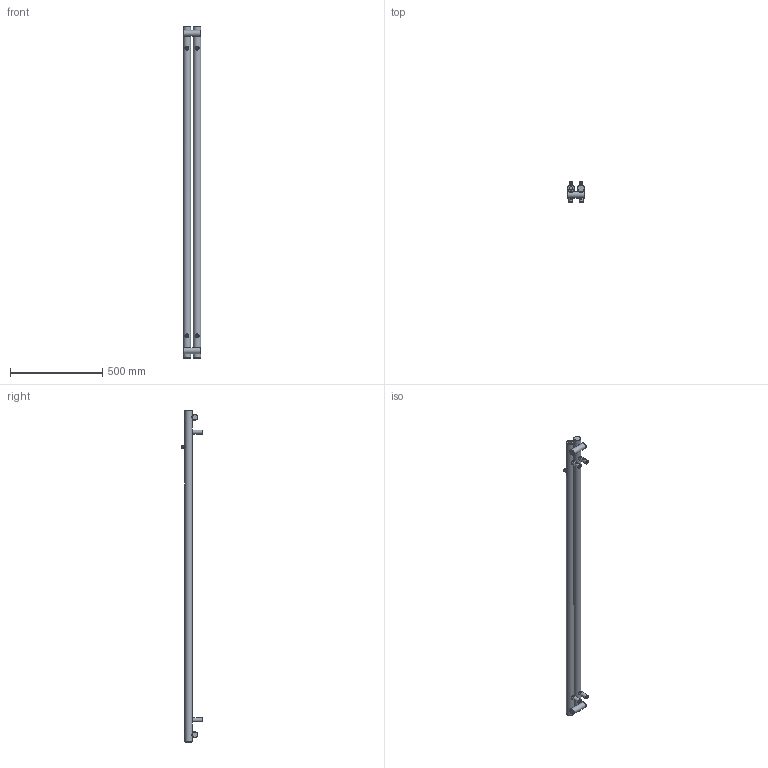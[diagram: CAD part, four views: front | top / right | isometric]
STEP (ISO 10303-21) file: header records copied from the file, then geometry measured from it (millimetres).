
FILE_DESCRIPTION(/* description */ (''),/* implementation_level */ '2;1');
FILE_NAME(/* name */ 'Z:\R\G\P\RGP116 - Grzejniki Geyser\Work\Inventor\Circolo (Rolo V, Rolo H)\ROLO-HANGER\Marketing\Bryły\Zaokrąglone\WGROW180009-SX-CK-(Z).stp',/* time_stamp */ '2024-03-27T09:36:32+01:00',/* author */ ('NowAd'),/* organization */ (''),/* preprocessor_version */ 'ST-DEVELOPER v17.2',/* originating_system */ 'Autodesk Inventor 2019',/* authorisation */ '');
FILE_SCHEMA (('AUTOMOTIVE_DESIGN { 1 0 10303 214 3 1 1 }'));
Length unit declared in the file: millimetre
Products named in the file (3): WGROR180009-SX-CK-(Z); PGROR180009-SX-CK-(K); CK-V-fi40 marketing
Assembly tree (5 placements, depth 2):
  WGROR180009-SX-CK-(Z)
    PGROR180009-SX-CK-(K)
    CK-V-fi40 marketing  x4
Bounding box: 95 x 116.5 x 1800 mm (x, y, z)
Volume: 4726724.3 mm3; surface area: 513209.2 mm2
Topology: 5 solids, 5 shells, 322 faces, 823 edges, 554 vertices
Faces by surface type: plane 133, cylinder 77, cone 60, torus 46, bspline 6
Full cylindrical faces by diameter (mm): 4.134 x4, 4.48 x4, 6.4 x4, 10 x4, 12 x4, 14 x2, 15.834 x4, 16 x4, 18.631 x3, 20 x4, 22 x4, 32 x2, 40 x2
Entity records: 5957 total; most frequent: CARTESIAN_POINT 2468, DIRECTION 752, ORIENTED_EDGE 688, EDGE_CURVE 344, AXIS2_PLACEMENT_3D 336, VERTEX_POINT 238, CIRCLE 187, EDGE_LOOP 172
